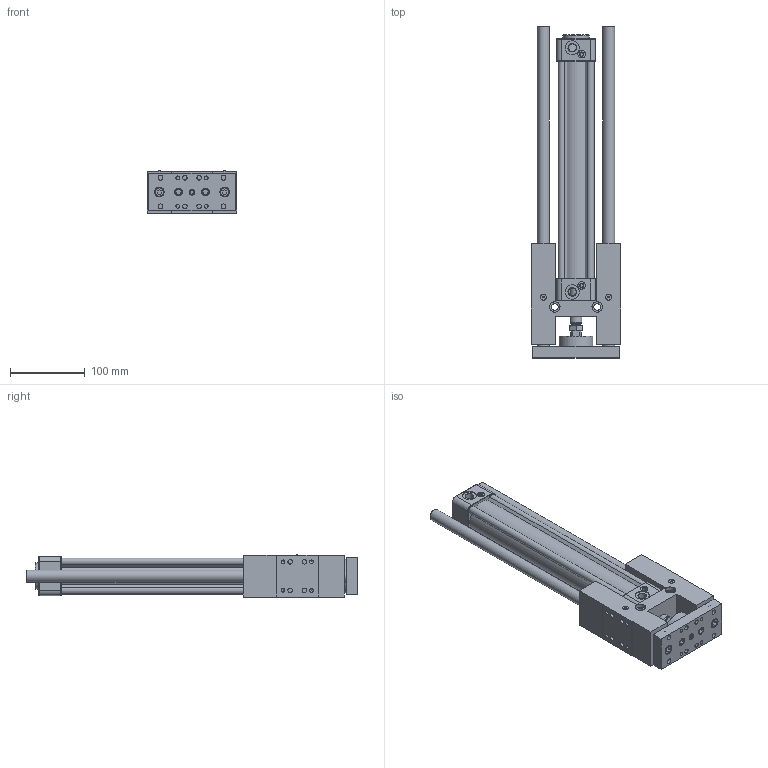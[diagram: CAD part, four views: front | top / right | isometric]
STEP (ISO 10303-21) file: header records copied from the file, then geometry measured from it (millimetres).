
FILE_DESCRIPTION((''),'2;1');
FILE_NAME('I:\3D電子目錄\氣缸\GHB(U)\GHB(U)\GHB(U)40\GHB(U)40x250.stp','2007-10-19T14:52:22',('Administrator'),(''),'Autodesk Inventor 11','Autodesk Inventor 11','');
FILE_SCHEMA(('AUTOMOTIVE_DESIGN { 1 0 10303 214 1 1 1 1 }'));
Length unit declared in the file: millimetre
Products named in the file (1): GHB(U)40
Bounding box: 119 x 443 x 56.2 mm (x, y, z)
Volume: 1142473.1 mm3; surface area: 287898.9 mm2
Topology: 17 solids, 17 shells, 779 faces, 1702 edges, 1054 vertices
Faces by surface type: plane 296, bspline 215, cylinder 170, cone 89, torus 9
Full cylindrical faces by diameter (mm): 2.6 x2, 4.9 x2, 4.917 x4, 5 x4, 5.5 x10, 6 x12, 6.5 x8, 6.8 x1, 7.8 x6, 8 x5, 9 x6, 9.5 x1, 9.9 x1, 10 x5, 10.2 x8, 12 x3, 13 x2, 16 x4, 18 x1, 19 x2, 21 x2, 35 x1, 40 x1, 45 x1
Entity records: 22134 total; most frequent: CARTESIAN_POINT 6597, DIRECTION 3108, ORIENTED_EDGE 2968, EDGE_CURVE 1484, AXIS2_PLACEMENT_3D 1218, EDGE_LOOP 1096, VERTEX_POINT 1022, FACE_OUTER_BOUND 779
